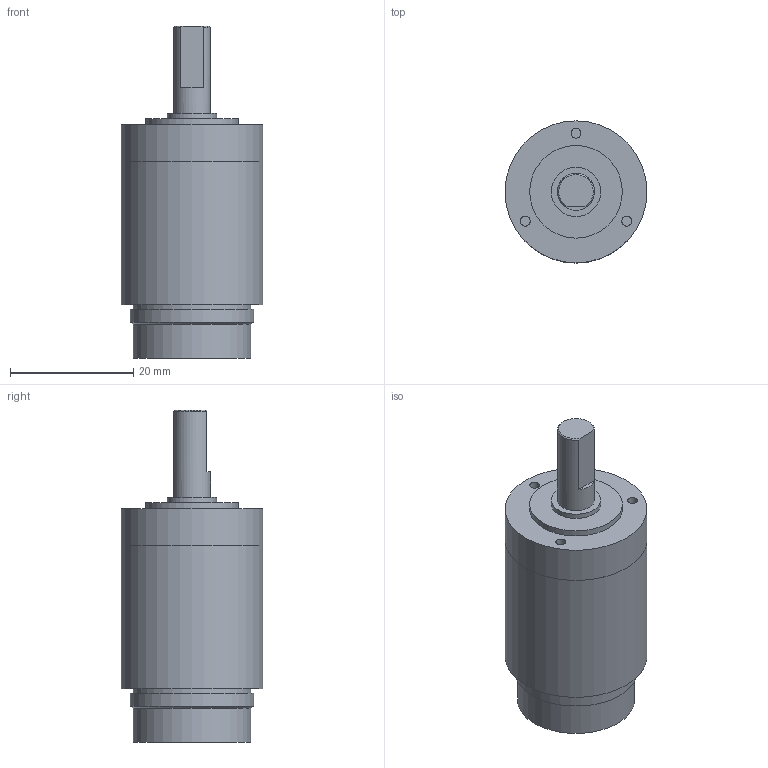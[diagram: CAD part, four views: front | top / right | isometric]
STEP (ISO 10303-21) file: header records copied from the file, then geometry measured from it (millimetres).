
FILE_DESCRIPTION(/* description */ (''),/* implementation_level */ '2;1');
FILE_NAME(/* name */ '23-1_4.stp',/* time_stamp */ '2016-09-06T15:04:25+02:00',/* author */ ('DR. FRITZ FAULHABER GmbH & Co. KG'),/* organization */ ('DR. FRITZ FAULHABER GmbH & Co. KG'),/* preprocessor_version */ 'ST-DEVELOPER v16',/* originating_system */ 'SIEMENS PLM Software NX 10.0',/* authorisation */ '');
FILE_SCHEMA (('AUTOMOTIVE_DESIGN { 1 0 10303 214 3 1 1 1 }'));
Length unit declared in the file: millimetre
Products named in the file (1): H00000162_A
Bounding box: 23 x 23 x 53.8 mm (x, y, z)
Volume: 14941.2 mm3; surface area: 4023.9 mm2
Topology: 1 solids, 1 shells, 34 faces, 72 edges, 59 vertices
Faces by surface type: plane 17, cylinder 15, cone 2
Full cylindrical faces by diameter (mm): 1.6 x3, 6 x1, 8 x1, 8.76 x1, 8.96 x1, 13.78 x1, 15 x1, 19 x2, 20 x1, 22.99 x1, 23 x2
Entity records: 889 total; most frequent: DIRECTION 165, CARTESIAN_POINT 131, AXIS2_PLACEMENT_3D 78, ORIENTED_EDGE 76, EDGE_LOOP 63, FACE_BOUND 55, CIRCLE 43, EDGE_CURVE 38
